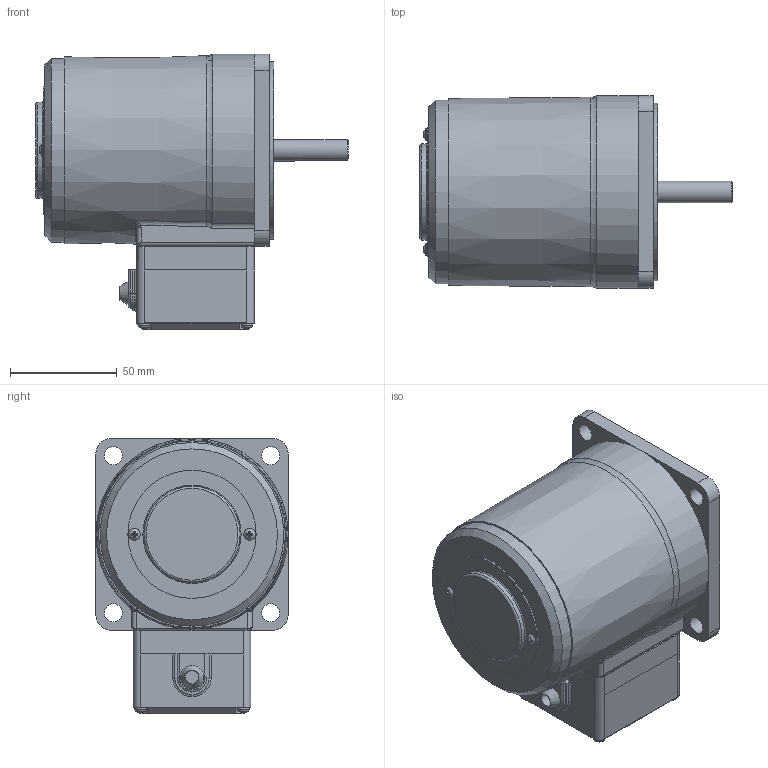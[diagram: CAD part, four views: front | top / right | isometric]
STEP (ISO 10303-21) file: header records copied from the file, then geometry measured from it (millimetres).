
FILE_DESCRIPTION(/* description */ (''),/* implementation_level */ '2;1');
FILE_NAME(/* name */ 'E:\도면작업\2016\0704) 미주향 SG 도면\3D MOTOR\TERMINAL BOX TYPE\REVERSIBLE TERMINAL BOX\SG9R40K_-T1.stp',/* time_stamp */ '2017-01-24T11:29:37+09:00',/* author */ ('jy-jung'),/* organization */ (''),/* preprocessor_version */ 'ST-DEVELOPER v15.6',/* originating_system */ 'Autodesk Inventor 2015',/* authorisation */ '');
FILE_SCHEMA (('AUTOMOTIVE_DESIGN { 1 0 10303 214 3 1 1 }'));
Length unit declared in the file: millimetre
Products named in the file (1): 부품1
Bounding box: 146.3 x 90 x 129 mm (x, y, z)
Volume: 781228.1 mm3; surface area: 62971.3 mm2
Topology: 1 solids, 5 shells, 311 faces, 810 edges, 521 vertices
Faces by surface type: plane 150, cylinder 61, cone 44, torus 32, bspline 20, sphere 4
Full cylindrical faces by diameter (mm): 3 x2, 3.5 x2, 5.6 x2, 8 x1, 8.5 x4, 10 x1, 40 x1, 43 x1, 45 x1, 60 x1, 83 x1, 86 x1
Entity records: 10489 total; most frequent: CARTESIAN_POINT 3013, ORIENTED_EDGE 1504, DIRECTION 1464, EDGE_CURVE 752, AXIS2_PLACEMENT_3D 562, VERTEX_POINT 508, EDGE_LOOP 380, LINE 340
